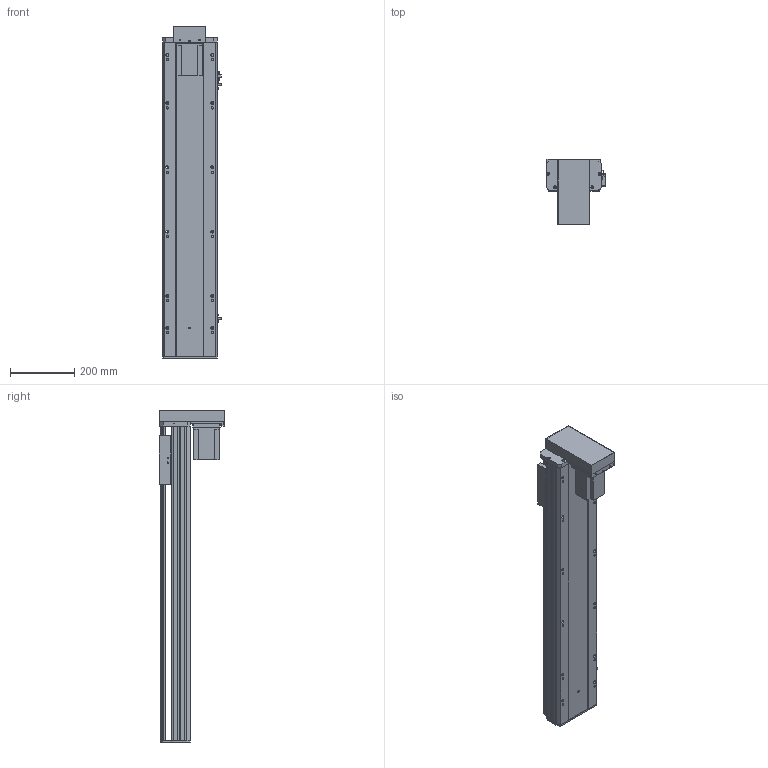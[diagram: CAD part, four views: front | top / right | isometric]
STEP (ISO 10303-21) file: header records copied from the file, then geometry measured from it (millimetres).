
FILE_DESCRIPTION (( 'STEP AP203' ), '1' );
FILE_NAME ('Y170-D10-S750-BM-P750W.STEP', '2020-01-22T03:06:32', ( '微软用户' ), ( '微软中国' ), 'SwSTEP 2.0', 'SolidWorks 2017', '' );
FILE_SCHEMA (( 'CONFIG_CONTROL_DESIGN' ));
Length unit declared in the file: millimetre
Products named in the file (12): Y100-135俋离換覜ん; 侂狟750W; Y170-D10-S750-BM-P750W; EGH20賑輸_蕼偞; Y雄赽釱-耜蚾; Y170-陔遴奻裔-BR; 170-BM耜蚾蟀諉啣; Y170-BM--P750W楊擘啣; -BM俋袗; Y170耜裔--準---; YD-Y100-135-新外置传感挡片(通用）; 170--掛极-BR
Assembly tree (14 placements, depth 2):
  Y170-D10-S750-BM-P750W
    Y170耜裔--準---
    170--掛极-BR
    侂狟750W
    EGH20賑輸_蕼偞  x2
    Y雄赽釱-耜蚾
    Y170-陔遴奻裔-BR
    170-BM耜蚾蟀諉啣
    Y170-BM--P750W楊擘啣
    -BM俋袗
    YD-Y100-135-新外置传感挡片(通用）
    Y100-135俋离換覜ん  x3
Bounding box: 183.5 x 203.5 x 1033.5 mm (x, y, z)
Volume: 5126136.3 mm3; surface area: 1737932.8 mm2
Topology: 14 solids, 14 shells, 906 faces, 2556 edges, 1686 vertices
Faces by surface type: cylinder 454, plane 436, cone 16
Entity records: 28666 total; most frequent: CARTESIAN_POINT 5071, DIRECTION 4744, ORIENTED_EDGE 4608, EDGE_CURVE 2304, AXIS2_PLACEMENT_3D 1683, VERTEX_POINT 1530, LINE 1378, VECTOR 1378
